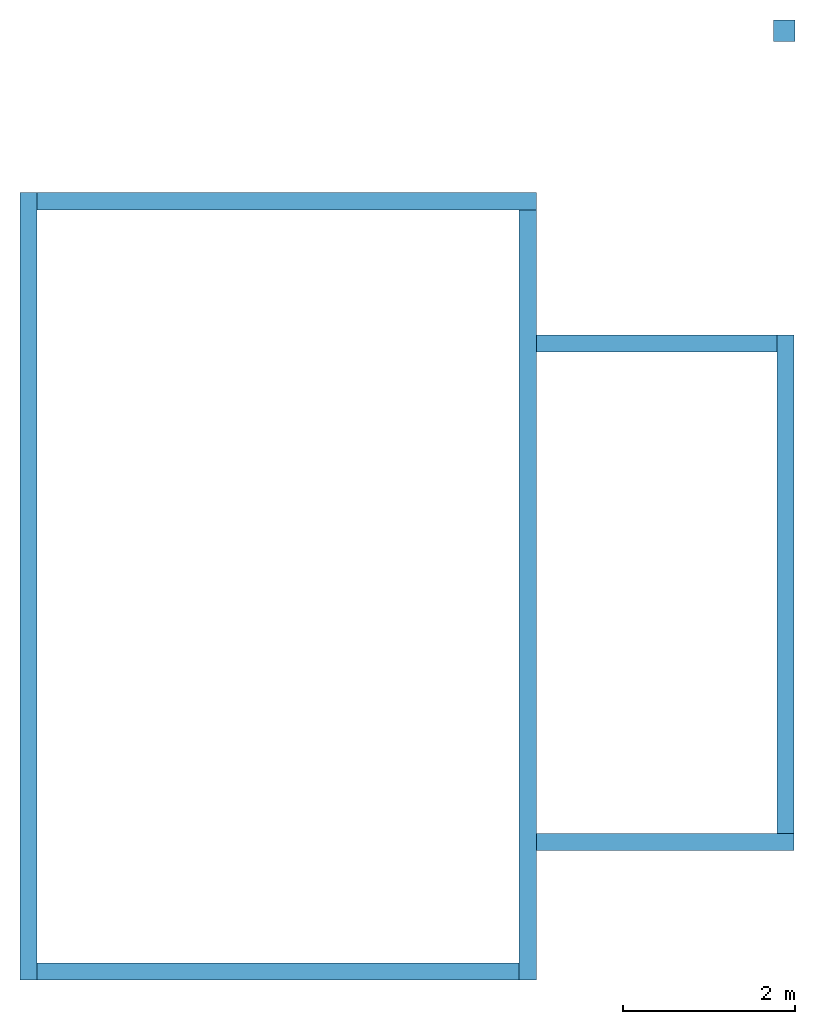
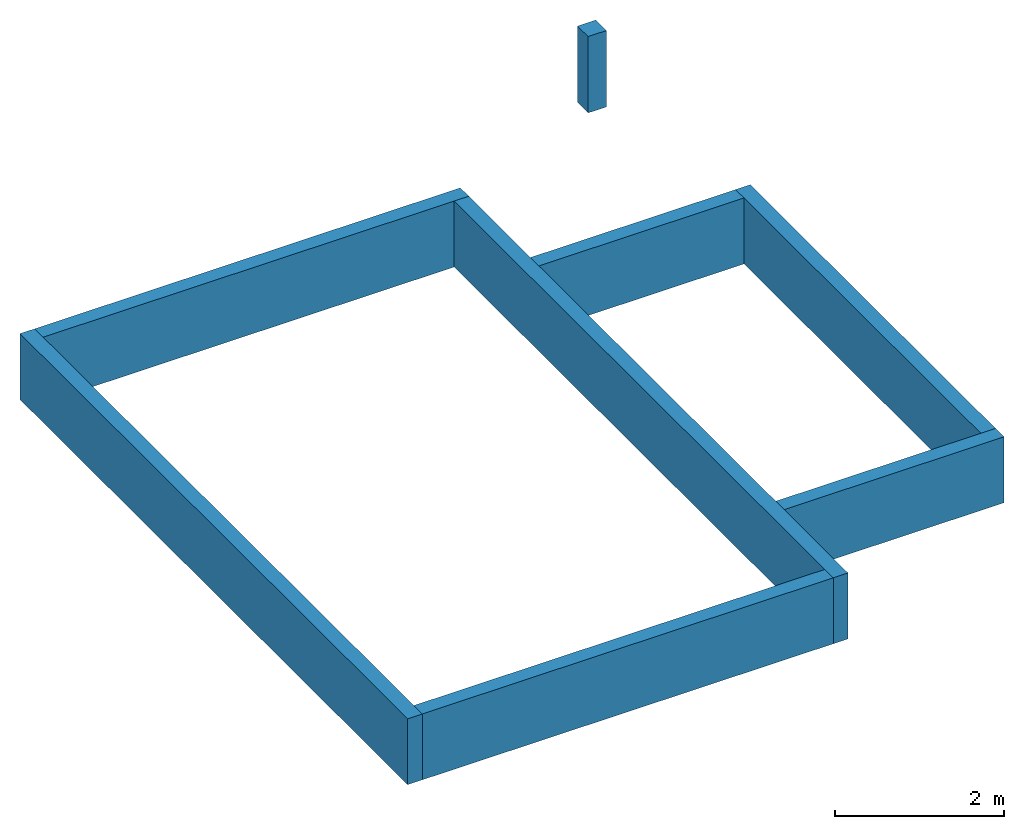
# One storey: 7 walls, 1 column.
"""IFC2X3 building model written with IfcOpenShell, lengths in metres."""

from ifc_helpers import new_model, entity, si_unit, converted_unit, derived_unit, direction, frame, frame_2d, origin, place, context, subcontext, project, spatial, polyline, rectangle, extrude, clip, bounded_halfspace, source, transform, mapped, material, layer, layer_set, layer_usage, type_object, type_shapes, element, save


model = new_model("IFC2X3")

# Units and contexts
model_context = context("Model", 3, precision=1e-05, world=origin(), true_north=direction((6.12303176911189e-17, 1.0)))
context_of_model = context(None, 3, precision=1e-05, world=origin(), true_north=direction((6.12303176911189e-17, 1.0)))
body_context = subcontext(model_context, "Body", "Model", "MODEL_VIEW")
ifc_project = project(units=[si_unit("LENGTHUNIT", "METRE"), si_unit("AREAUNIT", "SQUARE_METRE"), si_unit("VOLUMEUNIT", "CUBIC_METRE"), converted_unit("PLANEANGLEUNIT", "DEGREE", entity("IfcRatioMeasure", 0.0174532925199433), si_unit("PLANEANGLEUNIT", "RADIAN"), dimensions=[0, 0, 0, 0, 0, 0, 0]), si_unit("MASSUNIT", "GRAM", prefix="KILO"), si_unit("TIMEUNIT", "SECOND"), si_unit("FREQUENCYUNIT", "HERTZ"), si_unit("THERMODYNAMICTEMPERATUREUNIT", "DEGREE_CELSIUS"), derived_unit("THERMALTRANSMITTANCEUNIT", [(si_unit("MASSUNIT", "GRAM", prefix="KILO"), 1), (si_unit("THERMODYNAMICTEMPERATUREUNIT", "KELVIN"), -1), (si_unit("TIMEUNIT", "SECOND"), -3)]), derived_unit("VOLUMETRICFLOWRATEUNIT", [(si_unit("LENGTHUNIT", "METRE"), 3), (si_unit("TIMEUNIT", "SECOND"), -1)]), si_unit("ELECTRICCURRENTUNIT", "AMPERE"), si_unit("ELECTRICVOLTAGEUNIT", "VOLT"), si_unit("POWERUNIT", "WATT"), si_unit("FORCEUNIT", "NEWTON", prefix="KILO"), si_unit("ILLUMINANCEUNIT", "LUX"), si_unit("LUMINOUSFLUXUNIT", "LUMEN"), si_unit("LUMINOUSINTENSITYUNIT", "CANDELA"), si_unit("PRESSUREUNIT", "PASCAL")], contexts=[model_context, context_of_model])

# Site, building, storey
site_placement = place(None, origin())
site = spatial("IfcSite", under=ifc_project, at=site_placement, Name="Surface", CompositionType="ELEMENT")
building_placement = place(site_placement, origin())
building = spatial("IfcBuilding", under=site, at=building_placement, CompositionType="ELEMENT")
storey_placement = place(building_placement, frame((0.0, 0.0, -1.1)))
storey = spatial("IfcBuildingStorey", under=building, at=storey_placement, Name="soubassement", CompositionType="ELEMENT", Elevation=-1.1)

# Column
ifc_material_1 = material(Name="Béton - Béton précoulé - 35 MPa")
column_type = type_object("IfcColumnType", Name="250 x 250", PredefinedType="COLUMN", material=ifc_material_1)
shared_shape = source(origin(), body_context, "Body", "SweptSolid", [
    extrude(rectangle(XDim=0.25, YDim=0.249999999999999, at=frame_2d((2.28983498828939e-16, 2.4980018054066e-16), x_axis=(1.0, 0.0))), frame((-0.025, 0.0249999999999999, -1.1), z_axis=(0.0, 0.0, 1.0), x_axis=(-1.0, 0.0, 0.0)), (0.0, 0.0, 1.0), 1.09999999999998),
])
type_shapes(column_type, [shared_shape])
column_placement = place(storey_placement, frame((0.10590839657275, 3.64641734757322, 1.1)))
element("IfcColumn", 1, at=column_placement, inside=storey, type_object=column_type, material=ifc_material_1, Name="Poteau précoulé - Carré:250 x 250", ObjectType="250 x 250", context=body_context, shape_type="MappedRepresentation", body=[
    mapped(shared_shape, transform((0.0, 0.0, 0.0), scale=1.0)),
])

# Walls
ifc_material_2 = material(Name="Eléments de maçonnerie en béton")
ifc_layer = layer(ifc_material_2, 0.2)
ifc_layer_set = layer_set([ifc_layer], Name="Mur de base:Ext. Parpaing 2 sans enduit")
ifc_layer_usage_1 = layer_usage(ifc_layer_set, "AXIS2", "NEGATIVE", 0.1)
wall_type = type_object("IfcWallType", Name="Mur de base:Ext. Parpaing 2 sans enduit", PredefinedType="STANDARD", material=ifc_layer_set)
wall_1_placement = place(storey_placement, frame((-8.69909160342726, -7.35858265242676, 0.0), z_axis=(0.0, 0.0, 1.0), x_axis=(0.0, 1.0, 0.0)))
element("IfcWallStandardCase", 2, at=wall_1_placement, inside=storey, type_object=wall_type, material=ifc_layer_usage_1, Name="Mur de base:Ext. Parpaing 2 sans enduit", ObjectType="Mur de base:Ext. Parpaing 2 sans enduit", context=body_context, shape_type="Clipping", body=[
    clip(extrude(rectangle(XDim=9.15, YDim=0.2, at=frame_2d((4.575, 2.56739074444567e-16), x_axis=(-1.0, 0.0))), origin(), (0.0, 0.0, 1.0), 0.949999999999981), bounded_halfspace(frame((0.00999999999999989, -0.0999999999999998, 0.949999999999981), z_axis=(0.0, 0.0, -1.0), x_axis=(0.0, -1.0, 0.0)), True, frame((0.00999999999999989, -0.0999999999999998, 0.949999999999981)), polyline([(0.0, 0.0), (0.189999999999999, 0.0), (8.94, 0.0), (9.13, 0.0), (9.13, 0.19), (0.0, 0.19), (0.0, 0.0)]))),
])
ifc_layer_usage_2 = layer_usage(ifc_layer_set, "AXIS2", "NEGATIVE", 0.1)
wall_2_placement = place(storey_placement, frame((-8.59909160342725, 1.69141734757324, 0.0)))
element("IfcWallStandardCase", 3, at=wall_2_placement, inside=storey, type_object=wall_type, material=ifc_layer_usage_2, Name="Mur de base:Ext. Parpaing 2 sans enduit", ObjectType="Mur de base:Ext. Parpaing 2 sans enduit", context=body_context, shape_type="Clipping", body=[
    clip(extrude(rectangle(XDim=5.8, YDim=0.2, at=frame_2d((2.9, -7.63278329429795e-17), x_axis=(-1.0, 0.0))), origin(), (0.0, 0.0, 1.0), 0.949999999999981), bounded_halfspace(frame((0.0, -0.1, 0.949999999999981), z_axis=(0.0, 0.0, -1.0), x_axis=(1.0, 0.0, 0.0)), True, frame((0.0, -0.1, 0.949999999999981)), polyline([(0.0, 0.0), (5.6, 0.0), (5.79, 0.0), (5.79, 0.19), (0.0, 0.19), (0.0, 0.0)]))),
])
ifc_layer_usage_3 = layer_usage(ifc_layer_set, "AXIS2", "NEGATIVE", 0.1)
wall_3_placement = place(storey_placement, frame((-2.89909160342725, 1.59141734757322, 0.0), z_axis=(0.0, 0.0, 1.0), x_axis=(0.0, -1.0, 0.0)))
element("IfcWallStandardCase", 4, at=wall_3_placement, inside=storey, type_object=wall_type, material=ifc_layer_usage_3, Name="Mur de base:Ext. Parpaing 2 sans enduit", ObjectType="Mur de base:Ext. Parpaing 2 sans enduit", context=body_context, shape_type="Clipping", body=[
    clip(extrude(rectangle(XDim=8.95, YDim=0.2, at=frame_2d((4.475, 9.71445146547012e-17), x_axis=(-1.0, 0.0))), origin(), (0.0, 0.0, 1.0), 0.949999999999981), bounded_halfspace(frame((0.0, -0.0999999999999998, 0.949999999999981), z_axis=(0.0, 0.0, -1.0), x_axis=(0.0, 1.0, 0.0)), True, frame((0.0, -0.0999999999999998, 0.949999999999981)), polyline([(0.0, 0.0), (8.75, 0.0), (8.93999999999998, 0.0), (8.93999999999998, 0.19), (0.0, 0.190000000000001), (0.0, 0.0)]))),
])
ifc_layer_usage_4 = layer_usage(ifc_layer_set, "AXIS2", "NEGATIVE", 0.1)
wall_4_placement = place(storey_placement, frame((-2.99909160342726, -7.25858265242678, 0.0), z_axis=(0.0, 0.0, 1.0), x_axis=(-1.0, 0.0, 0.0)))
element("IfcWallStandardCase", 5, at=wall_4_placement, inside=storey, type_object=wall_type, material=ifc_layer_usage_4, Name="Mur de base:Ext. Parpaing 2 sans enduit", ObjectType="Mur de base:Ext. Parpaing 2 sans enduit", context=body_context, shape_type="Clipping", body=[
    clip(extrude(rectangle(XDim=5.6, YDim=0.2, at=frame_2d((2.8, -1.2490009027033e-16), x_axis=(-1.0, 0.0))), origin(), (0.0, 0.0, 1.0), 0.949999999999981), bounded_halfspace(frame((0.0, -0.1, 0.949999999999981), z_axis=(0.0, 0.0, -1.0), x_axis=(-1.0, 0.0, 0.0)), True, frame((0.0, -0.1, 0.949999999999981)), polyline([(0.0, 0.0), (5.6, 0.0), (5.6, 0.19), (0.0, 0.189999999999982), (0.0, 0.0)]))),
])
ifc_layer_usage_5 = layer_usage(ifc_layer_set, "AXIS2", "NEGATIVE", 0.1)
wall_5_placement = place(storey_placement, frame((0.195908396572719, -5.75358265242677, 0.0), z_axis=(0.0, 0.0, 1.0), x_axis=(-1.0, 0.0, 0.0)))
element("IfcWallStandardCase", 6, at=wall_5_placement, inside=storey, type_object=wall_type, material=ifc_layer_usage_5, Name="Mur de base:Ext. Parpaing 2 sans enduit", ObjectType="Mur de base:Ext. Parpaing 2 sans enduit", context=body_context, shape_type="SweptSolid", body=[
    extrude(rectangle(XDim=2.99499999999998, YDim=0.2, at=frame_2d((1.49749999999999, -9.0205620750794e-17), x_axis=(-1.0, 0.0))), origin(), (0.0, 0.0, 1.0), 0.949999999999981),
])
ifc_layer_usage_6 = layer_usage(ifc_layer_set, "AXIS2", "NEGATIVE", 0.1)
wall_6_placement = place(storey_placement, frame((0.0959083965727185, -5.65358265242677, 0.0), z_axis=(0.0, 0.0, 1.0), x_axis=(0.0, 1.0, 0.0)))
element("IfcWallStandardCase", 7, at=wall_6_placement, inside=storey, type_object=wall_type, material=ifc_layer_usage_6, Name="Mur de base:Ext. Parpaing 2 sans enduit", ObjectType="Mur de base:Ext. Parpaing 2 sans enduit", context=body_context, shape_type="SweptSolid", body=[
    extrude(rectangle(XDim=5.79, YDim=0.2, at=frame_2d((2.895, -1.38777878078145e-17), x_axis=(-1.0, 0.0))), origin(), (0.0, 0.0, 1.0), 0.949999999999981),
])
ifc_layer_usage_7 = layer_usage(ifc_layer_set, "AXIS2", "NEGATIVE", 0.1)
wall_7_placement = place(storey_placement, frame((-0.00409160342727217, 0.0364173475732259, 0.0), z_axis=(0.0, 0.0, 1.0), x_axis=(-1.0, 0.0, 0.0)))
element("IfcWallStandardCase", 8, at=wall_7_placement, inside=storey, type_object=wall_type, material=ifc_layer_usage_7, Name="Mur de base:Ext. Parpaing 2 sans enduit", ObjectType="Mur de base:Ext. Parpaing 2 sans enduit", context=body_context, shape_type="SweptSolid", body=[
    extrude(rectangle(XDim=2.79499999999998, YDim=0.2, at=frame_2d((1.39749999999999, 0.0), x_axis=(-1.0, 0.0))), origin(), (0.0, 0.0, 1.0), 0.949999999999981),
])

save(model, "model.ifc")
